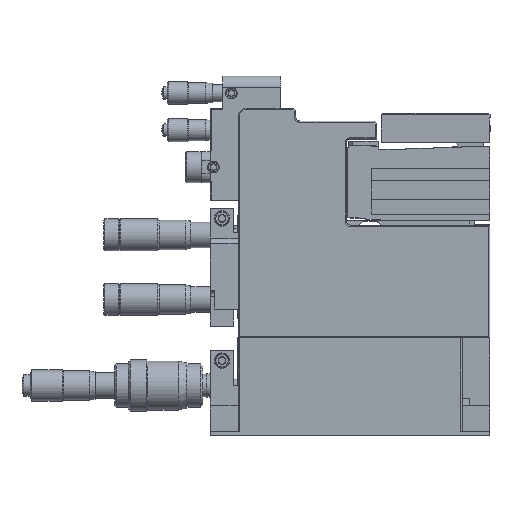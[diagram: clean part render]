
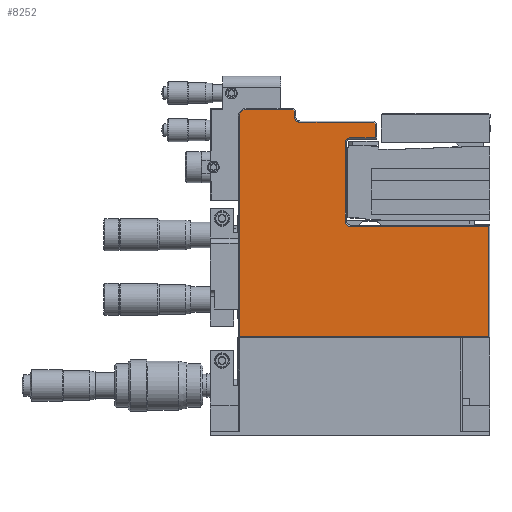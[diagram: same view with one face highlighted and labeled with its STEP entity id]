
A CAD part, top view. The second image highlights one B-rep face of the part: STEP entity #8252.
In plain terms, the highlighted planar face has unit normal (0, 0, 1).
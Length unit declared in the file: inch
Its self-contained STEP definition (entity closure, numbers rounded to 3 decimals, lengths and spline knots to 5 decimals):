
#2907=EDGE_CURVE('P5A-DM-MMMM-HN-SI[2]',#9389,#9390,#9391,.T.);
#3187=EDGE_CURVE('P5A-DM-MMMM-HN-SI[2]',#9620,#9822,#9860,.T.);
#3507=EDGE_CURVE('P5A-DM-MMMM-HN-SI[2]',#10373,#9822,#10374,.T.);
#3680=EDGE_CURVE('P5A-DM-MMMM-HN-SI[2]',#10639,#10640,#10641,.T.);
#4208=EDGE_CURVE('P5A-DM-MMMM-HN-SI[2]',#9406,#11459,#11460,.T.);
#5407=EDGE_CURVE('P5A-DM-MMMM-HN-SI[2]',#11803,#13144,#13145,.T.);
#5533=EDGE_CURVE('P5A-DM-MMMM-HN-SI[2]',#10728,#13308,#13309,.F.);
#5791=EDGE_CURVE('P5A-DM-MMMM-HN-SI[2]',#9390,#12799,#13659,.T.);
#5827=EDGE_CURVE('P5A-DM-MMMM-HN-SI[2]',#11194,#9389,#13705,.T.);
#5921=EDGE_CURVE('P5A-DM-MMMM-HN-SI[2]',#10640,#11803,#13828,.T.);
#6295=EDGE_CURVE('P5A-DM-MMMM-HN-SI[2]',#12799,#10373,#14326,.T.);
#7957=EDGE_CURVE('P5A-DM-MMMM-HN-SI[2]',#11459,#11194,#16457,.T.);
#8203=EDGE_CURVE('P5A-DM-MMMM-HN-SI[2]',#15433,#10728,#16773,.F.);
#8252=ADVANCED_FACE('P5A-DM-MMMM-HN-SI[2]',(#16828),#16829,.T.);
#8638=EDGE_CURVE('P5A-DM-MMMM-HN-SI[2]',#13144,#9406,#17298,.T.);
#8756=EDGE_CURVE('P5A-DM-MMMM-HN-SI[2]',#13308,#10639,#17434,.T.);
#8801=EDGE_CURVE('P5A-DM-MMMM-HN-SI[2]',#9620,#15433,#17489,.T.);
#9389=VERTEX_POINT('',#18224);
#9390=VERTEX_POINT('',#18225);
#9391=LINE('',#18226,#18227);
#9406=VERTEX_POINT('',#18248);
#9620=VERTEX_POINT('',#18538);
#9822=VERTEX_POINT('',#18827);
#9860=LINE('',#18889,#18890);
#10373=VERTEX_POINT('',#19633);
#10374=LINE('',#19634,#19635);
#10639=VERTEX_POINT('',#20044);
#10640=VERTEX_POINT('',#20045);
#10641=LINE('',#20046,#20047);
#10728=VERTEX_POINT('',#20164);
#11194=VERTEX_POINT('',#20815);
#11459=VERTEX_POINT('',#21206);
#11460=LINE('',#21207,#21208);
#11803=VERTEX_POINT('',#21734);
#12799=VERTEX_POINT('',#23253);
#13144=VERTEX_POINT('',#23760);
#13145=LINE('',#23761,#23762);
#13308=VERTEX_POINT('',#24037);
#13309=LINE('',#24038,#24039);
#13659=CIRCLE('',#24581,0.085);
#13705=CIRCLE('',#24657,0.085);
#13828=CIRCLE('',#24843,0.085);
#14326=LINE('',#25597,#25598);
#15433=VERTEX_POINT('',#27358);
#16457=LINE('',#28987,#28988);
#16773=CIRCLE('',#29498,0.11);
#16828=FACE_OUTER_BOUND('',#29598,.T.);
#16829=PLANE('',#29599);
#17298=LINE('',#30340,#30341);
#17434=LINE('',#30558,#30559);
#17489=LINE('',#30673,#30674);
#18224=CARTESIAN_POINT('',(-3.33,-0.98,0.875));
#18225=CARTESIAN_POINT('',(-3.33,-2.235,0.875));
#18226=CARTESIAN_POINT('',(-3.33,-2.29125,0.875));
#18227=VECTOR('',#31472,1.0);
#18248=CARTESIAN_POINT('',(-2.845,-0.67328,0.875));
#18538=CARTESIAN_POINT('',(-5.03,-4.1,0.875));
#18827=CARTESIAN_POINT('',(-1.02,-4.1,0.875));
#18889=CARTESIAN_POINT('',(-3.025,-4.1,0.875));
#18890=VECTOR('',#31884,1.0);
#19633=CARTESIAN_POINT('',(-1.02,-2.32,0.875));
#19634=CARTESIAN_POINT('',(-1.02,-3.485,0.875));
#19635=VECTOR('',#32410,1.0);
#20044=CARTESIAN_POINT('',(-4.145,-0.46828,0.875));
#20045=CARTESIAN_POINT('',(-4.145,-0.56,0.875));
#20046=CARTESIAN_POINT('',(-4.145,-1.74875,0.875));
#20047=VECTOR('',#32702,1.0);
#20164=CARTESIAN_POINT('',(-4.92,-0.44,0.875));
#20815=CARTESIAN_POINT('',(-3.245,-0.895,0.875));
#21206=CARTESIAN_POINT('',(-2.845,-0.895,0.875));
#21207=CARTESIAN_POINT('',(-2.845,-1.875,0.875));
#21208=VECTOR('',#33595,1.0);
#21734=CARTESIAN_POINT('',(-4.06,-0.645,0.875));
#23253=CARTESIAN_POINT('',(-3.245,-2.32,0.875));
#23760=CARTESIAN_POINT('',(-2.87328,-0.645,0.875));
#23761=CARTESIAN_POINT('',(-3.225,-0.645,0.875));
#23762=VECTOR('',#35434,1.0);
#24037=CARTESIAN_POINT('',(-4.17328,-0.44,0.875));
#24038=CARTESIAN_POINT('',(-3.025,-0.44,0.875));
#24039=VECTOR('',#35573,1.0);
#24581=AXIS2_PLACEMENT_3D('',#35949,#35950,#35951);
#24657=AXIS2_PLACEMENT_3D('',#36001,#36002,#36003);
#24843=AXIS2_PLACEMENT_3D('',#36166,#36167,#36168);
#25597=CARTESIAN_POINT('',(-2.07125,-2.32,0.875));
#25598=VECTOR('',#36853,1.0);
#27358=CARTESIAN_POINT('',(-5.03,-0.55,0.875));
#28987=CARTESIAN_POINT('',(-3.02375,-0.895,0.875));
#28988=VECTOR('',#39506,1.0);
#29498=AXIS2_PLACEMENT_3D('',#39981,#39982,#39983);
#29598=EDGE_LOOP('',(#40029,#40030,#40031,#40032,#40033,#40034,#40035,#40036,#40037,#40038,#40039,#40040,#40041,#40042,#40043,#40044));
#29599=AXIS2_PLACEMENT_3D('',#40045,#40046,#40047);
#30340=CARTESIAN_POINT('',(-2.31539,-1.20289,0.875));
#30341=VECTOR('',#40644,1.0);
#30558=CARTESIAN_POINT('',(-3.23914,-1.37414,0.875));
#30559=VECTOR('',#40813,1.0);
#30673=CARTESIAN_POINT('',(-5.03,-1.73232,0.875));
#30674=VECTOR('',#40876,1.0);
#31472=DIRECTION('',(0.0,-1.0,0.0));
#31884=DIRECTION('',(1.0,0.0,0.0));
#32410=DIRECTION('',(0.0,-1.0,-0.0));
#32702=DIRECTION('',(0.0,-1.0,-0.0));
#33595=DIRECTION('',(0.0,-1.0,0.0));
#35434=DIRECTION('',(1.0,0.0,0.0));
#35573=DIRECTION('',(-1.0,0.0,0.0));
#35949=CARTESIAN_POINT('',(-3.245,-2.235,0.875));
#35950=DIRECTION('',(0.0,0.0,1.0));
#35951=DIRECTION('',(-0.707,-0.707,0.0));
#36001=CARTESIAN_POINT('',(-3.245,-0.98,0.875));
#36002=DIRECTION('',(0.0,0.0,1.0));
#36003=DIRECTION('',(-0.707,0.707,0.0));
#36166=CARTESIAN_POINT('',(-4.06,-0.56,0.875));
#36167=DIRECTION('',(0.0,0.0,1.0));
#36168=DIRECTION('',(-0.707,-0.707,0.0));
#36853=DIRECTION('',(1.0,0.0,0.0));
#39506=DIRECTION('',(-1.0,0.0,0.0));
#39981=CARTESIAN_POINT('',(-4.92,-0.55,0.875));
#39982=DIRECTION('',(0.0,0.0,1.0));
#39983=DIRECTION('',(-0.707,0.707,0.0));
#40029=ORIENTED_EDGE('',*,*,#5533,.F.);
#40030=ORIENTED_EDGE('',*,*,#8203,.F.);
#40031=ORIENTED_EDGE('',*,*,#8801,.F.);
#40032=ORIENTED_EDGE('',*,*,#3187,.T.);
#40033=ORIENTED_EDGE('',*,*,#3507,.F.);
#40034=ORIENTED_EDGE('',*,*,#6295,.F.);
#40035=ORIENTED_EDGE('',*,*,#5791,.F.);
#40036=ORIENTED_EDGE('',*,*,#2907,.F.);
#40037=ORIENTED_EDGE('',*,*,#5827,.F.);
#40038=ORIENTED_EDGE('',*,*,#7957,.F.);
#40039=ORIENTED_EDGE('',*,*,#4208,.F.);
#40040=ORIENTED_EDGE('',*,*,#8638,.F.);
#40041=ORIENTED_EDGE('',*,*,#5407,.F.);
#40042=ORIENTED_EDGE('',*,*,#5921,.F.);
#40043=ORIENTED_EDGE('',*,*,#3680,.F.);
#40044=ORIENTED_EDGE('',*,*,#8756,.F.);
#40045=CARTESIAN_POINT('',(-3.025,-3.0,0.875));
#40046=DIRECTION('',(0.0,0.0,1.0));
#40047=DIRECTION('',(0.0,-1.0,0.0));
#40644=DIRECTION('',(0.707,-0.707,0.0));
#40813=DIRECTION('',(0.707,-0.707,0.0));
#40876=DIRECTION('',(0.0,1.0,0.0));
